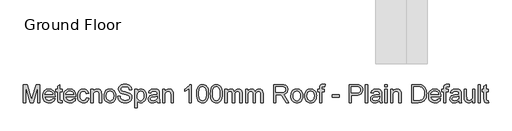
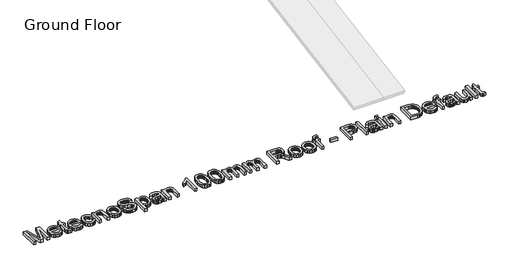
# One storey, part 4 of 5: 1 proxy.
"""IFC4 building model written with IfcOpenShell, lengths in millimetres."""

from ifc_helpers import new_model, si_unit, origin, origin_with_axes, place, context, project, spatial, polyline, outline, extrude, element, save

model = new_model("IFC4")

# Units and contexts
model_context = context("Model", 3, world=origin())
ifc_project = project(units=[si_unit("LENGTHUNIT", "METRE", prefix="MILLI")], contexts=[model_context])

# Site, building, storey
site = spatial("IfcSite", under=ifc_project)
building = spatial("IfcBuilding", under=site)
storey = spatial("IfcBuildingStorey", under=building, Name="Ground Floor", Elevation=0.0)

# Proxy
placement = place(None, origin())
element("IfcBuildingElementProxy", 1, Name="600mm Arial", ObjectType="600mm Arial", at=placement, inside=storey, context=model_context, shape_type="SweptSolid", body=[
    extrude(outline(polyline([(15814.5765515, -48798.8064148), (15814.5765515, -48208.0371841), (15941.6438592, -48208.0371841), (16062.5092438, -48624.4314148), (16086.8842438, -48711.4025687), (16113.2784745, -48617.2198764), (16232.1246284, -48208.0371841), (16359.1919361, -48208.0371841), (16359.1919361, -48798.8064148), (16285.3457822, -48798.8064148), (16285.3457822, -48281.8833379), (16136.9323207, -48798.8064148), (16036.8361668, -48798.8064148), (15888.4227053, -48281.8833379), (15888.4227053, -48798.8064148), (15814.5765515, -48798.8064148)])), origin_with_axes(), (0.0, 0.0, 1.0), 100.0),
    extrude(outline(polyline([(16782.9419361, -48669.5756456), (16855.3457822, -48678.8064148), (16844.2445202, -48707.8058139), (16829.2580418, -48733.3617033), (16810.3863471, -48755.4740831), (16787.6294361, -48774.1429533), (16761.2216837, -48788.9716793), (16731.3974649, -48799.5636264), (16698.1567798, -48805.9187946), (16661.4996284, -48808.0371841), (16615.6793159, -48804.3818355), (16574.8529938, -48793.4157898), (16539.020662, -48775.139047), (16508.1823207, -48749.5516071), (16483.3836428, -48717.3656095), (16465.6703015, -48679.2931937), (16455.0422967, -48635.3343595), (16451.4996284, -48585.4891071), (16455.0783543, -48533.9536504), (16465.8145322, -48488.5299725), (16483.708162, -48449.2180735), (16508.7592438, -48416.0179533), (16539.5164553, -48389.6417514), (16574.5284745, -48370.8016071), (16613.7953015, -48359.4975206), (16657.3169361, -48355.7294918), (16699.4368279, -48359.4885062), (16737.5272726, -48370.7655495), (16771.5882702, -48389.5606216), (16801.6198207, -48415.8737225), (16826.1345442, -48449.0017273), (16843.6450611, -48488.241511), (16854.1513712, -48533.5930735), (16857.6534745, -48585.0564148), (16857.2207822, -48604.960261), (16525.3457822, -48604.960261), (16529.623126, -48634.42841), (16538.1282342, -48660.2367033), (16550.8611067, -48682.3851408), (16567.8217438, -48700.8737225), (16588.0726452, -48715.4500446), (16610.6763111, -48725.8617033), (16635.6327414, -48732.1086985), (16662.9419361, -48734.1910302), (16702.2448207, -48730.3328571), (16735.3457822, -48718.7583379), (16762.2448207, -48698.7463187), (16782.9419361, -48669.5756456)]), holes=[polyline([(16525.3457822, -48531.1141071), (16783.8073207, -48531.1141071), (16773.8193399, -48492.0996841), (16765.2285947, -48476.757136), (16754.240013, -48464.1910302), (16734.1017918, -48449.0467995), (16711.1871284, -48438.2294918), (16685.4960226, -48431.7391071), (16657.0284745, -48429.5756456), (16631.0624289, -48431.3019076), (16607.2508303, -48436.4806937), (16585.5936789, -48445.1120038), (16566.0909745, -48457.1958379), (16549.7252894, -48472.1733019), (16537.4791957, -48489.4855014), (16529.3526933, -48509.1324365), (16525.3457822, -48531.1141071)])]), origin_with_axes(), (0.0, 0.0, 1.0), 100.0),
    extrude(outline(polyline([(17088.4227053, -48737.2198764), (17097.6534745, -48800.9698764), (17042.4130899, -48808.0371841), (17006.9683784, -48804.9722802), (16980.5380899, -48795.7775687), (16961.8602053, -48781.6068956), (16949.6727053, -48763.6141071), (16942.9659745, -48732.7126648), (16940.7303976, -48679.8160302), (16940.7303976, -48438.8064148), (16885.3457822, -48438.8064148), (16885.3457822, -48364.960261), (16940.7303976, -48364.960261), (16940.7303976, -48259.5275687), (17014.5765515, -48216.1141071), (17014.5765515, -48364.960261), (17088.4227053, -48364.960261), (17088.4227053, -48438.8064148), (17014.5765515, -48438.8064148), (17014.5765515, -48677.6525687), (17018.4707822, -48715.7294918), (17031.0909745, -48729.2150687), (17041.7460226, -48732.9470398), (17056.2592438, -48734.1910302), (17088.4227053, -48737.2198764)])), origin_with_axes(), (0.0, 0.0, 1.0), 100.0),
    extrude(outline(polyline([(17466.0188592, -48669.5756456), (17538.4227053, -48678.8064148), (17527.3214433, -48707.8058139), (17512.3349649, -48733.3617033), (17493.4632702, -48755.4740831), (17470.7063592, -48774.1429533), (17444.2986067, -48788.9716793), (17414.474388, -48799.5636264), (17381.2337029, -48805.9187946), (17344.5765515, -48808.0371841), (17298.756239, -48804.3818355), (17257.9299168, -48793.4157898), (17222.0975851, -48775.139047), (17191.2592438, -48749.5516071), (17166.4605659, -48717.3656095), (17148.7472245, -48679.2931937), (17138.1192197, -48635.3343595), (17134.5765515, -48585.4891071), (17138.1552774, -48533.9536504), (17148.8914553, -48488.5299725), (17166.7850851, -48449.2180735), (17191.8361668, -48416.0179533), (17222.5933784, -48389.6417514), (17257.6053976, -48370.8016071), (17296.8722245, -48359.4975206), (17340.3938592, -48355.7294918), (17382.513751, -48359.4885062), (17420.6041957, -48370.7655495), (17454.6651933, -48389.5606216), (17484.6967438, -48415.8737225), (17509.2114673, -48449.0017273), (17526.7219842, -48488.241511), (17537.2282942, -48533.5930735), (17540.7303976, -48585.0564148), (17540.2977053, -48604.960261), (17208.4227053, -48604.960261), (17212.7000491, -48634.42841), (17221.2051572, -48660.2367033), (17233.9380298, -48682.3851408), (17250.8986668, -48700.8737225), (17271.1495683, -48715.4500446), (17293.7532342, -48725.8617033), (17318.7096644, -48732.1086985), (17346.0188592, -48734.1910302), (17385.3217438, -48730.3328571), (17418.4227053, -48718.7583379), (17445.3217438, -48698.7463187), (17466.0188592, -48669.5756456)]), holes=[polyline([(17208.4227053, -48531.1141071), (17466.8842438, -48531.1141071), (17456.896263, -48492.0996841), (17448.3055178, -48476.757136), (17437.3169361, -48464.1910302), (17417.1787149, -48449.0467995), (17394.2640515, -48438.2294918), (17368.5729457, -48431.7391071), (17340.1053976, -48429.5756456), (17314.1393519, -48431.3019076), (17290.3277534, -48436.4806937), (17268.6706019, -48445.1120038), (17249.1678976, -48457.1958379), (17232.8022125, -48472.1733019), (17220.5561188, -48489.4855014), (17212.4296164, -48509.1324365), (17208.4227053, -48531.1141071)])]), origin_with_axes(), (0.0, 0.0, 1.0), 100.0),
    extrude(outline(polyline([(17891.4996284, -48641.8833379), (17965.3457822, -48651.1141071), (17957.3139313, -48685.9593595), (17944.7568399, -48716.7931937), (17927.6745082, -48743.6156095), (17906.0669361, -48766.4266071), (17880.8445803, -48784.6312345), (17852.9178976, -48797.6345398), (17822.286888, -48805.436523), (17788.9515515, -48808.0371841), (17747.5347846, -48804.4088788), (17710.3998688, -48793.5239629), (17677.5468039, -48775.3824365), (17648.9755899, -48749.9842995), (17625.8490875, -48717.8073163), (17609.3301572, -48679.3292514), (17599.4187991, -48634.5501047), (17596.115013, -48583.4698764), (17601.7580418, -48517.7547321), (17608.8118279, -48488.1829172), (17618.6871284, -48460.8016071), (17631.4515515, -48436.1606817), (17647.1727053, -48414.8100206), (17665.8505899, -48396.749624), (17687.4852053, -48381.9794918), (17711.0984866, -48370.4951168), (17735.7123688, -48362.2919918), (17761.3268519, -48357.3701168), (17787.9419361, -48355.7294918), (17820.7048567, -48357.9830975), (17850.3397726, -48364.7439148), (17876.8466837, -48376.0119437), (17900.2255899, -48391.7871841), (17920.0798567, -48411.7090591), (17936.0128495, -48435.4169918), (17948.0245683, -48462.9109821), (17956.115013, -48494.1910302), (17882.2688592, -48503.4217995), (17868.8734265, -48471.2042514), (17848.0140515, -48448.1092995), (17820.8445803, -48434.2090591), (17788.5188592, -48429.5756456), (17763.4272125, -48431.8562946), (17740.7965034, -48438.6982418), (17720.6267317, -48450.101487), (17702.9178976, -48466.0660302), (17688.4993279, -48486.9614629), (17678.2003495, -48513.1573764), (17672.0209625, -48544.6537706), (17669.9611668, -48581.4506456), (17671.9758904, -48618.8019076), (17678.0200611, -48650.663386), (17688.0936789, -48677.0350807), (17702.1967438, -48697.9169918), (17719.5540154, -48713.7868836), (17739.3902534, -48725.1225206), (17761.7054577, -48731.9239028), (17786.4996284, -48734.1910302), (17824.7388111, -48728.5299725), (17841.2757702, -48721.4536504), (17856.0909745, -48711.5467995), (17868.7697606, -48698.7012466), (17878.8974649, -48682.8088187), (17886.4740875, -48663.8695158), (17891.4996284, -48641.8833379)])), origin_with_axes(), (0.0, 0.0, 1.0), 100.0),
    extrude(outline(polyline([(18029.9611668, -48798.8064148), (18029.9611668, -48364.960261), (18103.8073207, -48364.960261), (18103.8073207, -48425.5371841), (18129.4623688, -48394.9963187), (18160.2736668, -48373.1814148), (18196.2412149, -48360.0924725), (18237.365013, -48355.7294918), (18273.7652534, -48359.2451168), (18307.1005899, -48369.7919918), (18334.9010707, -48386.054011), (18354.6967438, -48406.7150687), (18368.1282342, -48431.7210783), (18376.8361668, -48461.0179533), (18380.7303976, -48532.4121841), (18380.7303976, -48798.8064148), (18306.8842438, -48798.8064148), (18306.8842438, -48542.3641071), (18304.7568399, -48504.179011), (18298.3746284, -48477.0275687), (18286.6017918, -48457.5744437), (18268.302513, -48442.4842995), (18244.8469842, -48432.8028091), (18217.6053976, -48429.5756456), (18195.1820202, -48431.3875446), (18174.3541957, -48436.8232418), (18155.1219241, -48445.882737), (18137.4852053, -48458.5660302), (18122.7511308, -48476.3154293), (18112.2267918, -48500.5732418), (18105.9121885, -48531.3394677), (18103.8073207, -48568.6141071), (18103.8073207, -48798.8064148), (18029.9611668, -48798.8064148)])), origin_with_axes(), (0.0, 0.0, 1.0), 100.0),
    extrude(outline(polyline([(18463.8073207, -48581.8833379), (18467.8007101, -48525.6964389), (18479.7808784, -48477.2799725), (18499.7478255, -48436.6339389), (18527.7015515, -48403.7583379), (18555.8445803, -48382.7457177), (18586.9082822, -48367.7367033), (18620.8926572, -48358.7312946), (18657.7977053, -48355.7294918), (18698.5383904, -48359.3848403), (18735.3758303, -48370.350886), (18768.310025, -48388.6276288), (18797.3409745, -48414.2150687), (18821.0353856, -48446.2478211), (18837.9599649, -48483.8605014), (18848.1147125, -48527.0531095), (18851.4996284, -48575.8256456), (18850.0032342, -48615.3538908), (18845.5140515, -48650.429011), (18838.0320803, -48681.0510062), (18827.5573207, -48707.2198764), (18814.2204817, -48729.8235422), (18798.1522726, -48749.7499245), (18779.3526933, -48766.999023), (18757.8217438, -48781.5708379), (18734.3977654, -48793.1498644), (18709.9190995, -48801.4205975), (18684.3857462, -48806.3830374), (18657.7977053, -48808.0371841), (18616.4620683, -48804.3953571), (18579.2820803, -48793.4698764), (18546.2577414, -48775.2607418), (18517.3890515, -48749.7679533), (18493.9470442, -48717.4242033), (18477.2027534, -48678.6621841), (18467.1561789, -48633.4818956), (18463.8073207, -48581.8833379)]), holes=[polyline([(18537.6534745, -48581.7391071), (18539.7898928, -48617.5579172), (18546.1991476, -48648.5720398), (18556.881239, -48674.7814749), (18571.8361668, -48696.1862225), (18590.0272726, -48712.8133259), (18610.4178976, -48724.6898283), (18633.0080418, -48731.8157297), (18657.7977053, -48734.1910302), (18682.4611668, -48731.8022081), (18704.9611668, -48724.6357418), (18725.2977053, -48712.6916312), (18743.4707822, -48695.9698764), (18758.4257101, -48674.3532898), (18769.1078015, -48647.7246841), (18775.5170563, -48616.0840591), (18777.6534745, -48579.4314148), (18775.5035346, -48544.748422), (18769.0537149, -48514.5455975), (18758.3040154, -48488.8229413), (18743.2544361, -48467.5804533), (18725.013751, -48450.9533499), (18704.6907342, -48439.0768475), (18682.2853856, -48431.9509461), (18657.7977053, -48429.5756456), (18633.0080418, -48431.9419317), (18610.4178976, -48439.0407898), (18590.0272726, -48450.8722201), (18571.8361668, -48467.4362225), (18556.881239, -48488.7778692), (18546.1991476, -48514.9422321), (18539.7898928, -48545.9293115), (18537.6534745, -48581.7391071)])]), origin_with_axes(), (0.0, 0.0, 1.0), 100.0),
    extrude(outline(polyline([(18916.115013, -48595.7294918), (18989.9611668, -48595.7294918), (18998.4347245, -48636.7090591), (19013.7592438, -48669.647761), (19037.6654938, -48695.7895879), (19071.8842438, -48716.3785302), (19113.7111668, -48729.7379052), (19160.4419361, -48734.1910302), (19201.583763, -48730.819636), (19237.6053976, -48720.7054533), (19266.7940995, -48704.6958379), (19287.4371284, -48683.6381456), (19299.7147726, -48659.4614629), (19303.8073207, -48634.0948764), (19300.7424168, -48609.3773283), (19291.5477053, -48588.0131456), (19272.8698207, -48569.7859821), (19241.3553976, -48554.4794918), (19133.8313592, -48526.2823764), (19063.2484265, -48507.6225206), (19018.0861668, -48489.8641071), (18981.3253495, -48465.0203571), (18955.2736668, -48434.9121841), (18939.7508303, -48400.1886264), (18934.5765515, -48361.4987225), (18936.1766116, -48339.5080374), (18940.9767918, -48318.2475206), (18948.9770923, -48297.717172), (18960.177513, -48277.9169918), (18974.4518519, -48259.6537706), (18991.6739072, -48243.7342995), (19011.8436789, -48230.1585783), (19034.9611668, -48218.9266071), (19086.9203015, -48203.8364629), (19144.4323207, -48198.8064148), (19206.740013, -48204.0708379), (19261.2592438, -48219.8641071), (19285.1114072, -48231.6279293), (19306.0428976, -48245.8617033), (19324.0537149, -48262.5654293), (19339.1438592, -48281.7391071), (19351.1961428, -48302.8238427), (19360.0933784, -48325.2607418), (19365.8355659, -48349.0498043), (19368.4227053, -48374.1910302), (19294.5765515, -48374.1910302), (19289.6366476, -48350.6273283), (19281.0188592, -48330.1285302), (19268.7231861, -48312.694636), (19252.7496284, -48298.3256456), (19232.8007101, -48287.0936745), (19208.5789553, -48279.0708379), (19180.084364, -48274.257136), (19147.3169361, -48272.6525687), (19113.5038351, -48274.2391071), (19084.6126092, -48278.9987225), (19060.6432582, -48286.9314148), (19041.5957822, -48298.0371841), (19027.0825611, -48311.3875446), (19016.7159745, -48326.054011), (19010.4960226, -48342.0365831), (19008.4227053, -48359.335261), (19014.3001092, -48387.7126648), (19031.9323207, -48410.5371841), (19048.1222245, -48420.6874245), (19073.615013, -48430.9458379), (19152.5092438, -48451.7871841), (19233.927513, -48471.5828571), (19283.1823207, -48488.8544918), (19325.2796765, -48515.6453571), (19341.5552173, -48531.3935543), (19354.6486668, -48548.710261), (19364.7132702, -48567.5053331), (19371.9022726, -48587.6886264), (19377.6534745, -48632.2198764), (19375.9993279, -48655.3193355), (19371.036888, -48677.7427129), (19362.7661548, -48699.4900086), (19351.1871284, -48720.5612225), (19336.5026332, -48740.1405495), (19318.9154938, -48757.4121841), (19298.4257101, -48772.3761264), (19275.0332822, -48785.0323764), (19249.4187991, -48795.0969797), (19222.2628495, -48802.2859821), (19163.3265515, -48808.0371841), (19125.5516116, -48806.4867033), (19090.9767918, -48801.835261), (19059.6020923, -48794.0828571), (19031.427513, -48783.2294918), (19006.2817798, -48769.257136), (18983.9936188, -48752.147761), (18964.5630298, -48731.9013668), (18947.990013, -48708.5179533), (18934.6396524, -48682.7547321), (18924.8770322, -48655.3689148), (18918.7021524, -48626.3605014), (18916.115013, -48595.7294918)])), origin_with_axes(), (0.0, 0.0, 1.0), 100.0),
    extrude(outline(polyline([(19479.1919361, -48964.960261), (19479.1919361, -48364.960261), (19553.0380899, -48364.960261), (19553.0380899, -48437.3641071), (19577.1246284, -48401.6489629), (19604.0957822, -48376.1381456), (19635.5380899, -48360.8316552), (19673.0380899, -48355.7294918), (19698.7922967, -48357.5143475), (19722.9779938, -48362.8689148), (19745.5951813, -48371.7931937), (19766.6438592, -48384.2871841), (19785.6642918, -48400.0263668), (19802.1967438, -48418.6862225), (19816.2412149, -48440.2667514), (19827.7977053, -48464.7679533), (19843.2664553, -48519.179011), (19848.4227053, -48578.5660302), (19842.599388, -48641.7210783), (19835.3202414, -48670.7970999), (19825.1294361, -48698.2054533), (19812.1666957, -48723.2294918), (19796.5717438, -48745.1525687), (19778.3445803, -48763.9746841), (19757.4852053, -48779.6958379), (19735.0167558, -48792.0951769), (19711.9623688, -48800.9518475), (19688.3220442, -48806.2658499), (19664.0957822, -48808.0371841), (19630.1474649, -48803.2955975), (19599.8409745, -48789.0708379), (19573.8974649, -48767.5984821), (19553.0380899, -48741.1141071), (19553.0380899, -48964.960261), (19479.1919361, -48964.960261)]), holes=[polyline([(19553.0380899, -48585.3448764), (19555.0347846, -48620.9338187), (19561.0248688, -48651.5467995), (19571.0083423, -48677.1838187), (19584.9852053, -48697.8448764), (19601.810626, -48713.7463187), (19620.3397726, -48725.1044918), (19640.5726452, -48731.9193956), (19662.5092438, -48734.1910302), (19684.7613471, -48731.8382658), (19705.3638111, -48724.7799725), (19724.3166356, -48713.0161504), (19741.6198207, -48696.5467995), (19756.0383904, -48675.1375446), (19766.3373688, -48648.554011), (19772.5167558, -48616.7961985), (19774.5765515, -48579.8641071), (19772.5663351, -48544.5816552), (19766.5356861, -48514.022761), (19756.4846043, -48488.1874245), (19742.4130899, -48467.0756456), (19725.5471043, -48450.6693956), (19707.1126092, -48438.9506456), (19687.1096043, -48431.9193956), (19665.5380899, -48429.5756456), (19644.0341837, -48432.0681336), (19623.8013111, -48439.5455975), (19604.8394721, -48452.0080374), (19587.1486668, -48469.4554533), (19572.2252894, -48491.6534701), (19561.5657342, -48518.3677129), (19555.170001, -48549.5981817), (19553.0380899, -48585.3448764)])]), origin_with_axes(), (0.0, 0.0, 1.0), 100.0),
    extrude(outline(polyline([(20208.4227053, -48743.4217995), (20173.1402534, -48773.6742033), (20136.8121284, -48793.4698764), (20098.6090034, -48804.3953571), (20057.7015515, -48808.0371841), (20024.8214433, -48805.8466793), (19995.9888111, -48799.2751648), (19971.2036548, -48788.3226408), (19950.4659745, -48772.9891071), (19934.091275, -48754.2481216), (19922.3950611, -48733.0732418), (19915.3773327, -48709.4644677), (19913.0380899, -48683.4217995), (19916.5717438, -48652.8088187), (19927.1727053, -48625.0083379), (19943.5248688, -48601.210261), (19964.3121284, -48582.6044918), (19988.7412149, -48568.5419918), (20016.0188592, -48558.3737225), (20079.9130899, -48547.2679533), (20155.4178976, -48535.585261), (20207.990013, -48521.8833379), (20208.4227053, -48505.4410302), (20203.3385707, -48472.4842995), (20196.9834024, -48460.2787706), (20188.0861668, -48450.9217995), (20172.7075611, -48441.5828571), (20153.9755899, -48434.9121841), (20106.4515515, -48429.5756456), (20062.4611668, -48433.1273283), (20031.740013, -48443.7823764), (20010.7904938, -48463.4879052), (19996.115013, -48494.1910302), (19922.2688592, -48484.960261), (19935.0873688, -48444.5756456), (19954.2159745, -48412.8448764), (19981.4395322, -48388.5780495), (20018.5428976, -48370.585261), (20063.9215034, -48359.4434341), (20115.9707822, -48355.7294918), (20165.8926572, -48359.0107418), (20205.4659745, -48368.8544918), (20235.3037149, -48383.6561745), (20256.0188592, -48401.8112225), (20269.7568399, -48424.257136), (20278.6630899, -48451.9314148), (20282.2688592, -48516.5467995), (20282.2688592, -48608.4217995), (20286.0188592, -48736.7150687), (20291.5717438, -48768.4278091), (20300.7303976, -48798.8064148), (20226.8842438, -48798.8064148), (20215.0573207, -48773.1333379), (20208.4227053, -48743.4217995)]), holes=[polyline([(20208.4227053, -48595.7294918), (20158.8073207, -48608.0251648), (20089.2880899, -48618.3737225), (20025.7544361, -48630.3448764), (20009.2219842, -48638.5299725), (19996.9803976, -48649.8160302), (19989.4082822, -48663.3376648), (19986.8842438, -48678.2294918), (19992.3830418, -48700.1886264), (20008.8794361, -48718.1814148), (20036.0128495, -48730.1886264), (20073.4227053, -48734.1910302), (20113.0861668, -48729.7739629), (20148.1342438, -48716.522761), (20176.5477053, -48696.9975206), (20196.3073207, -48673.7583379), (20205.0693399, -48649.8160302), (20207.990013, -48616.6429533), (20208.4227053, -48595.7294918)])]), origin_with_axes(), (0.0, 0.0, 1.0), 100.0),
    extrude(outline(polyline([(20383.8073207, -48798.8064148), (20383.8073207, -48364.960261), (20457.6534745, -48364.960261), (20457.6534745, -48425.5371841), (20483.3085226, -48394.9963187), (20514.1198207, -48373.1814148), (20550.0873688, -48360.0924725), (20591.2111668, -48355.7294918), (20627.6114072, -48359.2451168), (20660.9467438, -48369.7919918), (20688.7472245, -48386.054011), (20708.5428976, -48406.7150687), (20721.974388, -48431.7210783), (20730.6823207, -48461.0179533), (20734.5765515, -48532.4121841), (20734.5765515, -48798.8064148), (20660.7303976, -48798.8064148), (20660.7303976, -48542.3641071), (20658.6029938, -48504.179011), (20652.2207822, -48477.0275687), (20640.4479457, -48457.5744437), (20622.1486668, -48442.4842995), (20598.693138, -48432.8028091), (20571.4515515, -48429.5756456), (20549.0281741, -48431.3875446), (20528.2003495, -48436.8232418), (20508.9680779, -48445.882737), (20491.3313592, -48458.5660302), (20476.5972846, -48476.3154293), (20466.0729457, -48500.5732418), (20459.7583423, -48531.3394677), (20457.6534745, -48568.6141071), (20457.6534745, -48798.8064148), (20383.8073207, -48798.8064148)])), origin_with_axes(), (0.0, 0.0, 1.0), 100.0),
    extrude(outline(polyline([(21325.3457822, -48798.8064148), (21251.4996284, -48798.8064148), (21251.4996284, -48338.4217995), (21220.6703015, -48363.3556937), (21181.5477053, -48388.2535302), (21140.4779938, -48410.0143475), (21103.8073207, -48425.5371841), (21103.8073207, -48355.7294918), (21161.8061188, -48324.179011), (21212.052513, -48286.6429533), (21251.661888, -48246.7270879), (21277.7496284, -48208.0371841), (21325.3457822, -48208.0371841), (21325.3457822, -48798.8064148)])), origin_with_axes(), (0.0, 0.0, 1.0), 100.0),
    extrude(outline(polyline([(21500.7303976, -48508.1814148), (21506.1570803, -48413.6201168), (21512.9404337, -48373.5194557), (21522.4371284, -48338.2054533), (21534.6065995, -48307.389648), (21549.4082822, -48280.7835783), (21566.8421765, -48258.3872442), (21586.9082822, -48240.2006456), (21609.6742077, -48226.1291312), (21635.2075611, -48216.0780495), (21663.5083423, -48210.0474004), (21694.5765515, -48208.0371841), (21740.0813592, -48212.7967995), (21780.8265515, -48227.0756456), (21814.9010707, -48250.3148283), (21840.3938592, -48281.9554533), (21859.6486668, -48321.7270879), (21875.0092438, -48369.3592995), (21885.0693399, -48429.8460783), (21888.4227053, -48508.1814148), (21883.0501092, -48602.2018475), (21876.334364, -48642.1672922), (21866.9323207, -48677.4362225), (21854.857501, -48708.2655495), (21840.1234265, -48734.9121841), (21822.7300971, -48757.3761264), (21802.677513, -48775.6573764), (21779.8845442, -48789.8235422), (21754.2700611, -48799.9422321), (21725.8340635, -48806.0134461), (21694.5765515, -48808.0371841), (21653.9034745, -48804.5215591), (21617.8457822, -48793.9746841), (21586.4034745, -48776.3965591), (21559.5765515, -48751.7871841), (21533.8313592, -48707.3010062), (21515.4419361, -48651.8713187), (21504.4082822, -48585.4981216), (21500.7303976, -48508.1814148)]), holes=[polyline([(21574.5765515, -48508.0371841), (21576.740013, -48572.233398), (21583.2303976, -48624.1970398), (21594.0477053, -48663.9281095), (21609.1919361, -48691.4266071), (21627.5092438, -48710.1360422), (21647.8457822, -48723.4999245), (21670.2015515, -48731.5182538), (21694.5765515, -48734.1910302), (21718.9515515, -48731.5092394), (21741.3073207, -48723.4638668), (21761.6438592, -48710.0549124), (21779.9611668, -48691.2823764), (21795.1053976, -48663.7388067), (21805.9227053, -48624.0167514), (21812.4130899, -48572.1162105), (21814.5765515, -48508.0371841), (21812.4852053, -48445.5401889), (21806.2111668, -48394.491511), (21795.7544361, -48354.8911504), (21781.115013, -48326.7391071), (21763.1041957, -48307.1147081), (21742.5332822, -48293.0972802), (21719.4022726, -48284.6868235), (21693.7111668, -48281.8833379), (21669.4623688, -48284.3532898), (21647.4852053, -48291.7631456), (21627.7796765, -48304.1129052), (21610.3457822, -48321.4025687), (21594.6967438, -48352.0516071), (21583.5188592, -48393.3737225), (21576.8121284, -48445.3689148), (21574.5765515, -48508.0371841)])]), origin_with_axes(), (0.0, 0.0, 1.0), 100.0),
    extrude(outline(polyline([(21953.0380899, -48508.1814148), (21958.4647726, -48413.6201168), (21965.248126, -48373.5194557), (21974.7448207, -48338.2054533), (21986.9142918, -48307.389648), (22001.7159745, -48280.7835783), (22019.1498688, -48258.3872442), (22039.2159745, -48240.2006456), (22061.9819, -48226.1291312), (22087.5152534, -48216.0780495), (22115.8160346, -48210.0474004), (22146.8842438, -48208.0371841), (22192.3890515, -48212.7967995), (22233.1342438, -48227.0756456), (22267.208763, -48250.3148283), (22292.7015515, -48281.9554533), (22311.9563592, -48321.7270879), (22327.3169361, -48369.3592995), (22337.3770322, -48429.8460783), (22340.7303976, -48508.1814148), (22335.3578015, -48602.2018475), (22328.6420563, -48642.1672922), (22319.240013, -48677.4362225), (22307.1651933, -48708.2655495), (22292.4311188, -48734.9121841), (22275.0377894, -48757.3761264), (22254.9852053, -48775.6573764), (22232.1922366, -48789.8235422), (22206.5777534, -48799.9422321), (22178.1417558, -48806.0134461), (22146.8842438, -48808.0371841), (22106.2111668, -48804.5215591), (22070.1534745, -48793.9746841), (22038.7111668, -48776.3965591), (22011.8842438, -48751.7871841), (21986.1390515, -48707.3010062), (21967.7496284, -48651.8713187), (21956.7159745, -48585.4981216), (21953.0380899, -48508.1814148)]), holes=[polyline([(22026.8842438, -48508.0371841), (22029.0477053, -48572.233398), (22035.5380899, -48624.1970398), (22046.3553976, -48663.9281095), (22061.4996284, -48691.4266071), (22079.8169361, -48710.1360422), (22100.1534745, -48723.4999245), (22122.5092438, -48731.5182538), (22146.8842438, -48734.1910302), (22171.2592438, -48731.5092394), (22193.615013, -48723.4638668), (22213.9515515, -48710.0549124), (22232.2688592, -48691.2823764), (22247.4130899, -48663.7388067), (22258.2303976, -48624.0167514), (22264.7207822, -48572.1162105), (22266.8842438, -48508.0371841), (22264.7928976, -48445.5401889), (22258.5188592, -48394.491511), (22248.0621284, -48354.8911504), (22233.4227053, -48326.7391071), (22215.411888, -48307.1147081), (22194.8409745, -48293.0972802), (22171.7099649, -48284.6868235), (22146.0188592, -48281.8833379), (22121.7700611, -48284.3532898), (22099.7928976, -48291.7631456), (22080.0873688, -48304.1129052), (22062.6534745, -48321.4025687), (22047.0044361, -48352.0516071), (22035.8265515, -48393.3737225), (22029.1198207, -48445.3689148), (22026.8842438, -48508.0371841)])]), origin_with_axes(), (0.0, 0.0, 1.0), 100.0),
    extrude(outline(polyline([(22423.8073207, -48798.8064148), (22423.8073207, -48364.960261), (22497.6534745, -48364.960261), (22497.6534745, -48436.3544918), (22519.865013, -48403.5600206), (22548.4227053, -48377.8689148), (22582.3529938, -48361.2643475), (22620.6823207, -48355.7294918), (22661.7520322, -48361.3725206), (22679.2309986, -48368.4263067), (22694.6727053, -48378.3016071), (22719.2640515, -48405.3989629), (22735.3457822, -48441.5467995), (22762.2628495, -48404.0017273), (22792.9659745, -48377.1838187), (22827.4551572, -48361.0930735), (22865.7303976, -48355.7294918), (22895.2931981, -48357.9605615), (22921.2412149, -48364.6537706), (22943.5744481, -48375.8091192), (22962.2928976, -48391.4266071), (22977.0900731, -48411.686523), (22987.6594842, -48436.7691552), (22994.0011308, -48466.6745038), (22996.115013, -48501.4025687), (22996.115013, -48798.8064148), (22922.2688592, -48798.8064148), (22922.2688592, -48533.1333379), (22920.5561188, -48496.3004052), (22915.4178976, -48471.4746841), (22905.7904938, -48454.4734821), (22890.6102053, -48441.1141071), (22871.0849649, -48432.460261), (22848.4227053, -48429.5756456), (22827.4957221, -48431.4236023), (22808.4166957, -48436.9674725), (22791.185626, -48446.2072562), (22775.802513, -48459.1429533), (22763.1507702, -48476.1531696), (22754.1138111, -48497.616511), (22748.6916356, -48523.5329773), (22746.8842438, -48553.9025687), (22746.8842438, -48798.8064148), (22673.0380899, -48798.8064148), (22673.0380899, -48524.9121841), (22668.7652534, -48483.1573764), (22655.9467438, -48453.3737225), (22646.0353856, -48442.9620639), (22633.3926572, -48435.5251648), (22618.0185587, -48431.0630254), (22599.9130899, -48429.5756456), (22571.4635707, -48433.5419918), (22545.2496284, -48445.4410302), (22523.615013, -48464.9842995), (22508.9034745, -48491.8833379), (22500.4659745, -48529.2030495), (22497.6534745, -48580.0083379), (22497.6534745, -48798.8064148), (22423.8073207, -48798.8064148)])), origin_with_axes(), (0.0, 0.0, 1.0), 100.0),
    extrude(outline(polyline([(23106.8842438, -48798.8064148), (23106.8842438, -48364.960261), (23180.7303976, -48364.960261), (23180.7303976, -48436.3544918), (23202.9419361, -48403.5600206), (23231.4996284, -48377.8689148), (23265.4299168, -48361.2643475), (23303.7592438, -48355.7294918), (23344.8289553, -48361.3725206), (23362.3079217, -48368.4263067), (23377.7496284, -48378.3016071), (23402.3409745, -48405.3989629), (23418.4227053, -48441.5467995), (23445.3397726, -48404.0017273), (23476.0428976, -48377.1838187), (23510.5320803, -48361.0930735), (23548.8073207, -48355.7294918), (23578.3701212, -48357.9605615), (23604.318138, -48364.6537706), (23626.6513712, -48375.8091192), (23645.3698207, -48391.4266071), (23660.1669962, -48411.686523), (23670.7364072, -48436.7691552), (23677.0780539, -48466.6745038), (23679.1919361, -48501.4025687), (23679.1919361, -48798.8064148), (23605.3457822, -48798.8064148), (23605.3457822, -48533.1333379), (23603.6330418, -48496.3004052), (23598.4948207, -48471.4746841), (23588.8674168, -48454.4734821), (23573.6871284, -48441.1141071), (23554.161888, -48432.460261), (23531.4996284, -48429.5756456), (23510.5726452, -48431.4236023), (23491.4936188, -48436.9674725), (23474.2625491, -48446.2072562), (23458.8794361, -48459.1429533), (23446.2276933, -48476.1531696), (23437.1907342, -48497.616511), (23431.7685587, -48523.5329773), (23429.9611668, -48553.9025687), (23429.9611668, -48798.8064148), (23356.115013, -48798.8064148), (23356.115013, -48524.9121841), (23351.8421765, -48483.1573764), (23339.0236668, -48453.3737225), (23329.1123087, -48442.9620639), (23316.4695803, -48435.5251648), (23301.0954817, -48431.0630254), (23282.990013, -48429.5756456), (23254.5404938, -48433.5419918), (23228.3265515, -48445.4410302), (23206.6919361, -48464.9842995), (23191.9803976, -48491.8833379), (23183.5428976, -48529.2030495), (23180.7303976, -48580.0083379), (23180.7303976, -48798.8064148), (23106.8842438, -48798.8064148)])), origin_with_axes(), (0.0, 0.0, 1.0), 100.0),
    extrude(outline(polyline([(24029.9611668, -48798.8064148), (24029.9611668, -48208.0371841), (24284.5284745, -48208.0371841), (24352.9479457, -48212.0215591), (24402.7255899, -48223.9746841), (24421.9353255, -48233.475886), (24439.1078015, -48246.0419918), (24454.2430178, -48261.6730014), (24467.3409745, -48280.3689148), (24477.9103856, -48301.124624), (24485.4599649, -48322.9350206), (24491.4996284, -48369.7198764), (24488.998126, -48400.0624245), (24481.4936188, -48427.9169918), (24468.9861067, -48453.2835783), (24451.4755899, -48476.1621841), (24428.7367077, -48495.8226408), (24400.5440995, -48511.5347802), (24366.8977654, -48523.2986023), (24327.7977053, -48531.1141071), (24352.1366476, -48547.0155495), (24369.7688592, -48562.7006456), (24429.6246284, -48638.710261), (24528.1342438, -48798.8064148), (24442.3169361, -48798.8064148), (24365.4419361, -48676.3544918), (24309.9130899, -48595.2967995), (24289.2700611, -48571.6609821), (24270.8986668, -48557.0035302), (24235.7784745, -48542.9410302), (24192.9419361, -48540.3448764), (24103.8073207, -48540.3448764), (24103.8073207, -48798.8064148), (24029.9611668, -48798.8064148)]), holes=[polyline([(24103.8073207, -48466.4987225), (24269.0957822, -48466.4987225), (24316.5657342, -48463.8845398), (24353.3986668, -48456.0419918), (24381.1270322, -48442.4482418), (24401.2832822, -48422.5804533), (24413.5609265, -48398.5480014), (24417.6534745, -48372.460261), (24415.7018519, -48353.5750446), (24409.8469842, -48336.4386264), (24400.0888712, -48321.0510062), (24386.427513, -48307.4121841), (24368.5474048, -48296.2433139), (24346.1330418, -48288.2655495), (24319.1844241, -48283.4788908), (24287.7015515, -48281.8833379), (24103.8073207, -48281.8833379), (24103.8073207, -48466.4987225)])]), origin_with_axes(), (0.0, 0.0, 1.0), 100.0),
    extrude(outline(polyline([(24593.0380899, -48581.8833379), (24597.0314793, -48525.6964389), (24609.0116476, -48477.2799725), (24628.9785947, -48436.6339389), (24656.9323207, -48403.7583379), (24685.0753495, -48382.7457177), (24716.1390515, -48367.7367033), (24750.1234265, -48358.7312946), (24787.0284745, -48355.7294918), (24827.7691596, -48359.3848403), (24864.6065995, -48370.350886), (24897.5407942, -48388.6276288), (24926.5717438, -48414.2150687), (24950.2661548, -48446.2478211), (24967.1907342, -48483.8605014), (24977.3454817, -48527.0531095), (24980.7303976, -48575.8256456), (24979.2340034, -48615.3538908), (24974.7448207, -48650.429011), (24967.2628495, -48681.0510062), (24956.7880899, -48707.2198764), (24943.451251, -48729.8235422), (24927.3830418, -48749.7499245), (24908.5834625, -48766.999023), (24887.052513, -48781.5708379), (24863.6285346, -48793.1498644), (24839.1498688, -48801.4205975), (24813.6165154, -48806.3830374), (24787.0284745, -48808.0371841), (24745.6928375, -48804.3953571), (24708.5128495, -48793.4698764), (24675.4885106, -48775.2607418), (24646.6198207, -48749.7679533), (24623.1778135, -48717.4242033), (24606.4335226, -48678.6621841), (24596.3869481, -48633.4818956), (24593.0380899, -48581.8833379)]), holes=[polyline([(24666.8842438, -48581.7391071), (24669.020662, -48617.5579172), (24675.4299168, -48648.5720398), (24686.1120082, -48674.7814749), (24701.0669361, -48696.1862225), (24719.2580418, -48712.8133259), (24739.6486668, -48724.6898283), (24762.2388111, -48731.8157297), (24787.0284745, -48734.1910302), (24811.6919361, -48731.8022081), (24834.1919361, -48724.6357418), (24854.5284745, -48712.6916312), (24872.7015515, -48695.9698764), (24887.6564793, -48674.3532898), (24898.3385707, -48647.7246841), (24904.7478255, -48616.0840591), (24906.8842438, -48579.4314148), (24904.7343039, -48544.748422), (24898.2844842, -48514.5455975), (24887.5347846, -48488.8229413), (24872.4852053, -48467.5804533), (24854.2445202, -48450.9533499), (24833.9215034, -48439.0768475), (24811.5161548, -48431.9509461), (24787.0284745, -48429.5756456), (24762.2388111, -48431.9419317), (24739.6486668, -48439.0407898), (24719.2580418, -48450.8722201), (24701.0669361, -48467.4362225), (24686.1120082, -48488.7778692), (24675.4299168, -48514.9422321), (24669.020662, -48545.9293115), (24666.8842438, -48581.7391071)])]), origin_with_axes(), (0.0, 0.0, 1.0), 100.0),
    extrude(outline(polyline([(25045.3457822, -48581.8833379), (25049.3391717, -48525.6964389), (25061.3193399, -48477.2799725), (25081.286287, -48436.6339389), (25109.240013, -48403.7583379), (25137.3830418, -48382.7457177), (25168.4467438, -48367.7367033), (25202.4311188, -48358.7312946), (25239.3361668, -48355.7294918), (25280.0768519, -48359.3848403), (25316.9142918, -48370.350886), (25349.8484866, -48388.6276288), (25378.8794361, -48414.2150687), (25402.5738471, -48446.2478211), (25419.4984265, -48483.8605014), (25429.6531741, -48527.0531095), (25433.0380899, -48575.8256456), (25431.5416957, -48615.3538908), (25427.052513, -48650.429011), (25419.5705418, -48681.0510062), (25409.0957822, -48707.2198764), (25395.7589433, -48729.8235422), (25379.6907342, -48749.7499245), (25360.8911548, -48766.999023), (25339.3602053, -48781.5708379), (25315.9362269, -48793.1498644), (25291.4575611, -48801.4205975), (25265.9242077, -48806.3830374), (25239.3361668, -48808.0371841), (25198.0005298, -48804.3953571), (25160.8205418, -48793.4698764), (25127.7962029, -48775.2607418), (25098.927513, -48749.7679533), (25075.4855058, -48717.4242033), (25058.7412149, -48678.6621841), (25048.6946404, -48633.4818956), (25045.3457822, -48581.8833379)]), holes=[polyline([(25119.1919361, -48581.7391071), (25121.3283543, -48617.5579172), (25127.7376092, -48648.5720398), (25138.4197005, -48674.7814749), (25153.3746284, -48696.1862225), (25171.5657342, -48712.8133259), (25191.9563592, -48724.6898283), (25214.5465034, -48731.8157297), (25239.3361668, -48734.1910302), (25263.9996284, -48731.8022081), (25286.4996284, -48724.6357418), (25306.8361668, -48712.6916312), (25325.0092438, -48695.9698764), (25339.9641717, -48674.3532898), (25350.646263, -48647.7246841), (25357.0555178, -48616.0840591), (25359.1919361, -48579.4314148), (25357.0419962, -48544.748422), (25350.5921765, -48514.5455975), (25339.8424769, -48488.8229413), (25324.7928976, -48467.5804533), (25306.5522125, -48450.9533499), (25286.2291957, -48439.0768475), (25263.8238471, -48431.9509461), (25239.3361668, -48429.5756456), (25214.5465034, -48431.9419317), (25191.9563592, -48439.0407898), (25171.5657342, -48450.8722201), (25153.3746284, -48467.4362225), (25138.4197005, -48488.7778692), (25127.7376092, -48514.9422321), (25121.3283543, -48545.9293115), (25119.1919361, -48581.7391071)])]), origin_with_axes(), (0.0, 0.0, 1.0), 100.0),
    extrude(outline(polyline([(25534.5765515, -48798.8064148), (25534.5765515, -48438.8064148), (25469.9611668, -48438.8064148), (25469.9611668, -48364.960261), (25534.5765515, -48364.960261), (25534.5765515, -48321.2583379), (25536.5236668, -48285.0924725), (25542.365013, -48259.6717995), (25557.2207822, -48235.116511), (25580.1534745, -48215.6814148), (25612.2448207, -48203.0251648), (25654.5765515, -48198.8064148), (25686.6318399, -48200.8256456), (25721.9323207, -48206.8833379), (25711.115013, -48276.1141071), (25668.5669361, -48272.6525687), (25640.4960226, -48275.7174725), (25622.052513, -48284.9121841), (25611.8301572, -48302.4722802), (25608.4227053, -48330.6333379), (25608.4227053, -48364.960261), (25691.4996284, -48364.960261), (25691.4996284, -48438.8064148), (25608.4227053, -48438.8064148), (25608.4227053, -48798.8064148), (25534.5765515, -48798.8064148)])), origin_with_axes(), (0.0, 0.0, 1.0), 100.0),
    extrude(outline(polyline([(25949.9611668, -48623.4217995), (25949.9611668, -48549.5756456), (26180.7303976, -48549.5756456), (26180.7303976, -48623.4217995), (25949.9611668, -48623.4217995)])), origin_with_axes(), (0.0, 0.0, 1.0), 100.0),
    extrude(outline(polyline([(26503.8073207, -48798.8064148), (26503.8073207, -48208.0371841), (26722.7496284, -48208.0371841), (26773.7352053, -48209.4434341), (26811.0188592, -48213.6621841), (26850.3758303, -48224.1730014), (26882.7736668, -48241.2823764), (26908.8614072, -48265.7655495), (26929.2880899, -48298.397761), (26942.4852053, -48336.8893475), (26946.8842438, -48378.9506456), (26943.9139914, -48415.2156696), (26935.0032342, -48448.5780495), (26920.1519721, -48479.037785), (26899.3602053, -48506.5948764), (26870.8160346, -48529.4374245), (26832.7075611, -48545.7535302), (26785.0347846, -48555.5431937), (26727.7977053, -48558.8064148), (26577.6534745, -48558.8064148), (26577.6534745, -48798.8064148), (26503.8073207, -48798.8064148)]), holes=[polyline([(26577.6534745, -48484.960261), (26732.1246284, -48484.960261), (26767.6414553, -48483.2655495), (26797.6053976, -48478.1814148), (26822.0164553, -48469.7078571), (26840.8746284, -48457.8448764), (26854.9461428, -48442.9079773), (26864.9972245, -48425.2126648), (26871.0278736, -48404.7589389), (26873.0380899, -48381.5467995), (26868.2965034, -48348.3737225), (26854.0717438, -48320.3929533), (26832.130638, -48299.335261), (26804.240013, -48286.9314148), (26775.7544361, -48283.1453571), (26730.3938592, -48281.8833379), (26577.6534745, -48281.8833379), (26577.6534745, -48484.960261)])]), origin_with_axes(), (0.0, 0.0, 1.0), 100.0),
    extrude(outline(polyline([(27039.1919361, -48798.8064148), (27039.1919361, -48208.0371841), (27113.0380899, -48208.0371841), (27113.0380899, -48798.8064148), (27039.1919361, -48798.8064148)])), origin_with_axes(), (0.0, 0.0, 1.0), 100.0),
    extrude(outline(polyline([(27500.7303976, -48743.4217995), (27465.4479457, -48773.6742033), (27429.1198207, -48793.4698764), (27390.9166957, -48804.3953571), (27350.0092438, -48808.0371841), (27317.1291356, -48805.8466793), (27288.2965034, -48799.2751648), (27263.5113471, -48788.3226408), (27242.7736668, -48772.9891071), (27226.3989673, -48754.2481216), (27214.7027534, -48733.0732418), (27207.685025, -48709.4644677), (27205.3457822, -48683.4217995), (27208.8794361, -48652.8088187), (27219.4803976, -48625.0083379), (27235.8325611, -48601.210261), (27256.6198207, -48582.6044918), (27281.0489072, -48568.5419918), (27308.3265515, -48558.3737225), (27372.2207822, -48547.2679533), (27447.7255899, -48535.585261), (27500.2977053, -48521.8833379), (27500.7303976, -48505.4410302), (27495.646263, -48472.4842995), (27489.2910947, -48460.2787706), (27480.3938592, -48450.9217995), (27465.0152534, -48441.5828571), (27446.2832822, -48434.9121841), (27398.7592438, -48429.5756456), (27354.7688592, -48433.1273283), (27324.0477053, -48443.7823764), (27303.0981861, -48463.4879052), (27288.4227053, -48494.1910302), (27214.5765515, -48484.960261), (27227.3950611, -48444.5756456), (27246.5236668, -48412.8448764), (27273.7472245, -48388.5780495), (27310.8505899, -48370.585261), (27356.2291957, -48359.4434341), (27408.2784745, -48355.7294918), (27458.2003495, -48359.0107418), (27497.7736668, -48368.8544918), (27527.6114072, -48383.6561745), (27548.3265515, -48401.8112225), (27562.0645322, -48424.257136), (27570.9707822, -48451.9314148), (27574.5765515, -48516.5467995), (27574.5765515, -48608.4217995), (27578.3265515, -48736.7150687), (27583.8794361, -48768.4278091), (27593.0380899, -48798.8064148), (27519.1919361, -48798.8064148), (27507.365013, -48773.1333379), (27500.7303976, -48743.4217995)]), holes=[polyline([(27500.7303976, -48595.7294918), (27451.115013, -48608.0251648), (27381.5957822, -48618.3737225), (27318.0621284, -48630.3448764), (27301.5296765, -48638.5299725), (27289.2880899, -48649.8160302), (27281.7159745, -48663.3376648), (27279.1919361, -48678.2294918), (27284.6907342, -48700.1886264), (27301.1871284, -48718.1814148), (27328.3205418, -48730.1886264), (27365.7303976, -48734.1910302), (27405.3938592, -48729.7739629), (27440.4419361, -48716.522761), (27468.8553976, -48696.9975206), (27488.615013, -48673.7583379), (27497.3770322, -48649.8160302), (27500.2977053, -48616.6429533), (27500.7303976, -48595.7294918)])]), origin_with_axes(), (0.0, 0.0, 1.0), 100.0),
    extrude(outline(polyline([(27676.115013, -48798.8064148), (27676.115013, -48364.960261), (27749.9611668, -48364.960261), (27749.9611668, -48798.8064148), (27676.115013, -48798.8064148)])), origin_with_axes(), (0.0, 0.0, 1.0), 100.0),
    extrude(outline(polyline([(27676.115013, -48281.8833379), (27676.115013, -48208.0371841), (27749.9611668, -48208.0371841), (27749.9611668, -48281.8833379), (27676.115013, -48281.8833379)])), origin_with_axes(), (0.0, 0.0, 1.0), 100.0),
    extrude(outline(polyline([(27860.7303976, -48798.8064148), (27860.7303976, -48364.960261), (27934.5765515, -48364.960261), (27934.5765515, -48425.5371841), (27960.2315995, -48394.9963187), (27991.0428976, -48373.1814148), (28027.0104457, -48360.0924725), (28068.1342438, -48355.7294918), (28104.5344842, -48359.2451168), (28137.8698207, -48369.7919918), (28165.6703015, -48386.054011), (28185.4659745, -48406.7150687), (28198.8974649, -48431.7210783), (28207.6053976, -48461.0179533), (28211.4996284, -48532.4121841), (28211.4996284, -48798.8064148), (28137.6534745, -48798.8064148), (28137.6534745, -48542.3641071), (28135.5260707, -48504.179011), (28129.1438592, -48477.0275687), (28117.3710226, -48457.5744437), (28099.0717438, -48442.4842995), (28075.6162149, -48432.8028091), (28048.3746284, -48429.5756456), (28025.951251, -48431.3875446), (28005.1234265, -48436.8232418), (27985.8911548, -48445.882737), (27968.2544361, -48458.5660302), (27953.5203616, -48476.3154293), (27942.9960226, -48500.5732418), (27936.6814192, -48531.3394677), (27934.5765515, -48568.6141071), (27934.5765515, -48798.8064148), (27860.7303976, -48798.8064148)])), origin_with_axes(), (0.0, 0.0, 1.0), 100.0),
    extrude(outline(polyline([(28553.0380899, -48798.8064148), (28553.0380899, -48208.0371841), (28756.8361668, -48208.0371841), (28817.7376092, -48210.1645879), (28862.2688592, -48216.5467995), (28909.3602053, -48232.9530495), (28949.0957822, -48258.8064148), (28970.9918159, -48279.9362225), (28989.9491476, -48303.8064148), (29005.9677774, -48330.4169918), (29019.0477053, -48359.7679533), (29029.2069601, -48391.5888668), (29036.4635707, -48425.6092995), (29042.2688592, -48500.2487225), (29038.3385707, -48563.6561745), (29026.5477053, -48619.4554533), (29008.5909745, -48666.9614629), (28986.1630899, -48705.4891071), (28960.3457822, -48735.9037706), (28932.2207822, -48759.0708379), (28899.9311188, -48776.2523283), (28861.6198207, -48788.710261), (28817.2147726, -48796.2823764), (28766.6438592, -48798.8064148), (28553.0380899, -48798.8064148)]), holes=[polyline([(28626.8842438, -48724.960261), (28757.5573207, -48724.960261), (28811.6078015, -48722.2919918), (28852.6053976, -48714.2871841), (28883.5428976, -48701.4145879), (28907.4130899, -48684.1429533), (28933.068138, -48652.1778091), (28952.3409745, -48610.8016071), (28964.4022726, -48559.8340591), (28968.4227053, -48499.0948764), (28966.4530539, -48456.2222802), (28960.5440995, -48418.6141071), (28950.6958423, -48386.2703571), (28936.9082822, -48359.1910302), (28920.2992077, -48336.7631456), (28901.9864072, -48318.3737225), (28881.9698808, -48304.022761), (28860.2496284, -48293.710261), (28817.7736668, -48284.8400687), (28755.5380899, -48281.8833379), (28626.8842438, -48281.8833379), (28626.8842438, -48724.960261)])]), origin_with_axes(), (0.0, 0.0, 1.0), 100.0),
    extrude(outline(polyline([(29438.3265515, -48669.5756456), (29510.7303976, -48678.8064148), (29499.6291356, -48707.8058139), (29484.6426572, -48733.3617033), (29465.7709625, -48755.4740831), (29443.0140515, -48774.1429533), (29416.6062991, -48788.9716793), (29386.7820803, -48799.5636264), (29353.5413952, -48805.9187946), (29316.8842438, -48808.0371841), (29271.0639313, -48804.3818355), (29230.2376092, -48793.4157898), (29194.4052774, -48775.139047), (29163.5669361, -48749.5516071), (29138.7682582, -48717.3656095), (29121.0549168, -48679.2931937), (29110.426912, -48635.3343595), (29106.8842438, -48585.4891071), (29110.4629697, -48533.9536504), (29121.1991476, -48488.5299725), (29139.0927774, -48449.2180735), (29164.1438592, -48416.0179533), (29194.9010707, -48389.6417514), (29229.9130899, -48370.8016071), (29269.1799168, -48359.4975206), (29312.7015515, -48355.7294918), (29354.8214433, -48359.4885062), (29392.911888, -48370.7655495), (29426.9728856, -48389.5606216), (29457.0044361, -48415.8737225), (29481.5191596, -48449.0017273), (29499.0296765, -48488.241511), (29509.5359866, -48533.5930735), (29513.0380899, -48585.0564148), (29512.6053976, -48604.960261), (29180.7303976, -48604.960261), (29185.0077414, -48634.42841), (29193.5128495, -48660.2367033), (29206.2457221, -48682.3851408), (29223.2063592, -48700.8737225), (29243.4572606, -48715.4500446), (29266.0609265, -48725.8617033), (29291.0173567, -48732.1086985), (29318.3265515, -48734.1910302), (29357.6294361, -48730.3328571), (29390.7303976, -48718.7583379), (29417.6294361, -48698.7463187), (29438.3265515, -48669.5756456)]), holes=[polyline([(29180.7303976, -48531.1141071), (29439.1919361, -48531.1141071), (29429.2039553, -48492.0996841), (29420.6132101, -48476.757136), (29409.6246284, -48464.1910302), (29389.4864072, -48449.0467995), (29366.5717438, -48438.2294918), (29340.880638, -48431.7391071), (29312.4130899, -48429.5756456), (29286.4470442, -48431.3019076), (29262.6354457, -48436.4806937), (29240.9782942, -48445.1120038), (29221.4755899, -48457.1958379), (29205.1099048, -48472.1733019), (29192.8638111, -48489.4855014), (29184.7373087, -48509.1324365), (29180.7303976, -48531.1141071)])]), origin_with_axes(), (0.0, 0.0, 1.0), 100.0),
    extrude(outline(polyline([(29605.3457822, -48798.8064148), (29605.3457822, -48438.8064148), (29540.7303976, -48438.8064148), (29540.7303976, -48364.960261), (29605.3457822, -48364.960261), (29605.3457822, -48321.2583379), (29607.2928976, -48285.0924725), (29613.1342438, -48259.6717995), (29627.990013, -48235.116511), (29650.9227053, -48215.6814148), (29683.0140515, -48203.0251648), (29725.3457822, -48198.8064148), (29757.4010707, -48200.8256456), (29792.7015515, -48206.8833379), (29781.8842438, -48276.1141071), (29739.3361668, -48272.6525687), (29711.2652534, -48275.7174725), (29692.8217438, -48284.9121841), (29682.599388, -48302.4722802), (29679.1919361, -48330.6333379), (29679.1919361, -48364.960261), (29762.2688592, -48364.960261), (29762.2688592, -48438.8064148), (29679.1919361, -48438.8064148), (29679.1919361, -48798.8064148), (29605.3457822, -48798.8064148)])), origin_with_axes(), (0.0, 0.0, 1.0), 100.0),
    extrude(outline(polyline([(30103.8073207, -48743.4217995), (30068.5248688, -48773.6742033), (30032.1967438, -48793.4698764), (29993.9936188, -48804.3953571), (29953.0861668, -48808.0371841), (29920.2060587, -48805.8466793), (29891.3734265, -48799.2751648), (29866.5882702, -48788.3226408), (29845.8505899, -48772.9891071), (29829.4758904, -48754.2481216), (29817.7796765, -48733.0732418), (29810.7619481, -48709.4644677), (29808.4227053, -48683.4217995), (29811.9563592, -48652.8088187), (29822.5573207, -48625.0083379), (29838.9094842, -48601.210261), (29859.6967438, -48582.6044918), (29884.1258303, -48568.5419918), (29911.4034745, -48558.3737225), (29975.2977053, -48547.2679533), (30050.802513, -48535.585261), (30103.3746284, -48521.8833379), (30103.8073207, -48505.4410302), (30098.7231861, -48472.4842995), (30092.3680178, -48460.2787706), (30083.4707822, -48450.9217995), (30068.0921765, -48441.5828571), (30049.3602053, -48434.9121841), (30001.8361668, -48429.5756456), (29957.8457822, -48433.1273283), (29927.1246284, -48443.7823764), (29906.1751092, -48463.4879052), (29891.4996284, -48494.1910302), (29817.6534745, -48484.960261), (29830.4719842, -48444.5756456), (29849.6005899, -48412.8448764), (29876.8241476, -48388.5780495), (29913.927513, -48370.585261), (29959.3061188, -48359.4434341), (30011.3553976, -48355.7294918), (30061.2772726, -48359.0107418), (30100.8505899, -48368.8544918), (30130.6883303, -48383.6561745), (30151.4034745, -48401.8112225), (30165.1414553, -48424.257136), (30174.0477053, -48451.9314148), (30177.6534745, -48516.5467995), (30177.6534745, -48608.4217995), (30181.4034745, -48736.7150687), (30186.9563592, -48768.4278091), (30196.115013, -48798.8064148), (30122.2688592, -48798.8064148), (30110.4419361, -48773.1333379), (30103.8073207, -48743.4217995)]), holes=[polyline([(30103.8073207, -48595.7294918), (30054.1919361, -48608.0251648), (29984.6727053, -48618.3737225), (29921.1390515, -48630.3448764), (29904.6065995, -48638.5299725), (29892.365013, -48649.8160302), (29884.7928976, -48663.3376648), (29882.2688592, -48678.2294918), (29887.7676572, -48700.1886264), (29904.2640515, -48718.1814148), (29931.3974649, -48730.1886264), (29968.8073207, -48734.1910302), (30008.4707822, -48729.7739629), (30043.5188592, -48716.522761), (30071.9323207, -48696.9975206), (30091.6919361, -48673.7583379), (30100.4539553, -48649.8160302), (30103.3746284, -48616.6429533), (30103.8073207, -48595.7294918)])]), origin_with_axes(), (0.0, 0.0, 1.0), 100.0),
    extrude(outline(polyline([(30556.115013, -48798.8064148), (30556.115013, -48724.2391071), (30529.396263, -48760.9007658), (30498.2784745, -48787.0876648), (30462.7616476, -48802.7998043), (30422.8457822, -48808.0371841), (30386.8782342, -48804.3592995), (30353.3986668, -48793.3256456), (30325.3097245, -48776.7391071), (30305.5140515, -48756.4025687), (30292.1907342, -48731.7030495), (30283.5188592, -48702.0275687), (30279.1919361, -48633.3737225), (30279.1919361, -48364.960261), (30353.0380899, -48364.960261), (30353.0380899, -48598.6141071), (30354.1558784, -48645.3448764), (30357.5092438, -48673.9025687), (30368.2724649, -48699.0167514), (30386.7159745, -48718.1092995), (30411.6138111, -48730.1705975), (30441.740013, -48734.1910302), (30473.5969842, -48730.0804533), (30503.3986668, -48717.7487225), (30527.9719842, -48698.3316552), (30544.1438592, -48672.9650687), (30553.1222245, -48638.2234821), (30556.115013, -48590.6814148), (30556.115013, -48364.960261), (30629.9611668, -48364.960261), (30629.9611668, -48798.8064148), (30556.115013, -48798.8064148)])), origin_with_axes(), (0.0, 0.0, 1.0), 100.0),
    extrude(outline(polyline([(30731.4996284, -48798.8064148), (30731.4996284, -48208.0371841), (30805.3457822, -48208.0371841), (30805.3457822, -48798.8064148), (30731.4996284, -48798.8064148)])), origin_with_axes(), (0.0, 0.0, 1.0), 100.0),
    extrude(outline(polyline([(31073.0380899, -48737.2198764), (31082.2688592, -48800.9698764), (31027.0284745, -48808.0371841), (30991.583763, -48804.9722802), (30965.1534745, -48795.7775687), (30946.4755899, -48781.6068956), (30934.2880899, -48763.6141071), (30927.5813592, -48732.7126648), (30925.3457822, -48679.8160302), (30925.3457822, -48438.8064148), (30869.9611668, -48438.8064148), (30869.9611668, -48364.960261), (30925.3457822, -48364.960261), (30925.3457822, -48259.5275687), (30999.1919361, -48216.1141071), (30999.1919361, -48364.960261), (31073.0380899, -48364.960261), (31073.0380899, -48438.8064148), (30999.1919361, -48438.8064148), (30999.1919361, -48677.6525687), (31003.0861668, -48715.7294918), (31015.7063592, -48729.2150687), (31026.3614072, -48732.9470398), (31040.8746284, -48734.1910302), (31073.0380899, -48737.2198764)])), origin_with_axes(), (0.0, 0.0, 1.0), 100.0),
])

save(model, "model.ifc")
